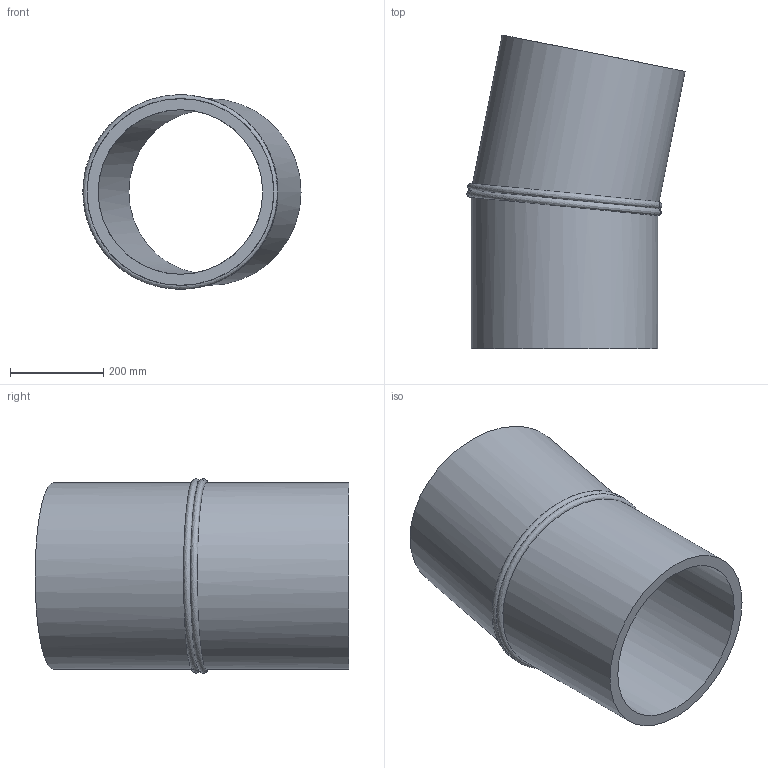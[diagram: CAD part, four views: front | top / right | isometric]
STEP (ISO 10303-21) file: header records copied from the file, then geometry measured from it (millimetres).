
FILE_DESCRIPTION(/* description */ ('Unknown'),/* implementation_level */ '2;1');
FILE_NAME(/* name */ 'Curva 11.25° a settore DE400 SDR17',/* time_stamp */ '2022-07-22T15:18:42+02:00',/* author */ ('Unknown'),/* organization */ ('Unknown'),/* preprocessor_version */ 'ST-DEVELOPER v18.102',/* originating_system */ 'Solid Edge',/* authorisation */ 'Unknown');
FILE_SCHEMA (('AUTOMOTIVE_DESIGN {1 0 10303 214 3 1 1}'));
Length unit declared in the file: millimetre
Products named in the file (2): Curva 11.25° a settore DE400 SDR17; Tubo x Gomito 11.25° DE400 SDR17
Assembly tree (2 placements, depth 2):
  Curva 11.25° a settore DE400 SDR17
    Tubo x Gomito 11.25° DE400 SDR17  x2
Bounding box: 467.47 x 672.27 x 416.46 mm (x, y, z)
Volume: 18168610 mm3; surface area: 1651282.2 mm2
Topology: 2 solids, 2 shells, 10 faces, 20 edges, 14 vertices
Faces by surface type: cylinder 4, plane 4, bspline 2
Full cylindrical faces by diameter (mm): 352.6 x2, 400 x2
Entity records: 767 total; most frequent: CARTESIAN_POINT 630, DIRECTION 20, ORIENTED_EDGE 10, EDGE_LOOP 10, FACE_BOUND 10, AXIS2_PLACEMENT_3D 10, EDGE_CURVE 5, VERTEX_POINT 5
